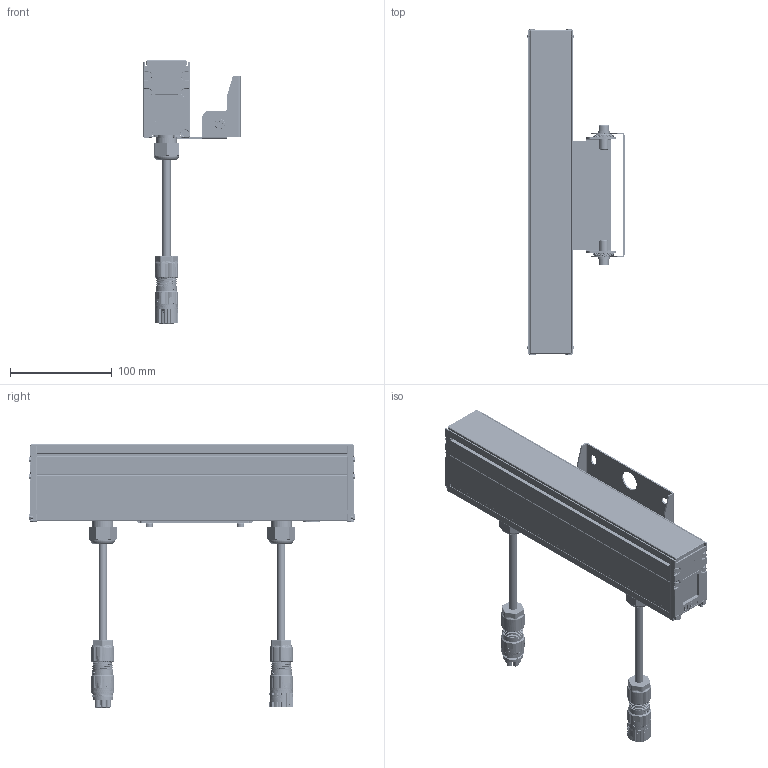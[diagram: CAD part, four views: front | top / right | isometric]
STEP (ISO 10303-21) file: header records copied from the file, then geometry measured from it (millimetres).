
FILE_DESCRIPTION(/* description */ ('Unknown'),/* implementation_level */ '2;1');
FILE_NAME(/* name */ 'ARCHILINE W 12.6',/* time_stamp */ '2023-01-24T03:51:58-05:00',/* author */ ('Unknown'),/* organization */ ('Unknown'),/* preprocessor_version */ 'ST-DEVELOPER v18.1',/* originating_system */ 'Solid Edge',/* authorisation */ 'Unknown');
FILE_SCHEMA (('AUTOMOTIVE_DESIGN {1 0 10303 214 3 1 1}'));
Products named in the file (1): ARCHILINE W 12.6
Bounding box: 95.65 x 321.8 x 259.28 mm (x, y, z)
Volume: 402719 mm3; surface area: 295157.7 mm2
Topology: 3 solids, 8 shells, 7422 faces, 21294 edges, 13783 vertices
Faces by surface type: plane 3575, cylinder 2015, bspline 1065, torus 338, cone 233, sphere 196
Full cylindrical faces by diameter (mm): 2 x20, 2.05 x5, 2.494 x1, 2.5 x14, 2.6 x1, 2.9 x29, 3 x15, 3.242 x4, 3.5 x4, 4 x2, 4.917 x2, 4.922 x2, 5.188 x1, 6 x2, 6.1 x2, 6.5 x11, 6.8 x8, 7 x4, 7.4 x2, 8.13 x2, 8.6 x2, 10 x2, 12 x5, 13 x2, 17 x1, 17.168 x4, 18.513 x2, 18.7 x2, 18.724 x2, 19 x10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
Entity records: 884691 total; most frequent: CARTESIAN_POINT 651799, ORIENTED_EDGE 40974, DIRECTION 34024, EDGE_CURVE 20487, VERTEX_POINT 13485, AXIS2_PLACEMENT_3D 12567, LINE 8890, VECTOR 8890
